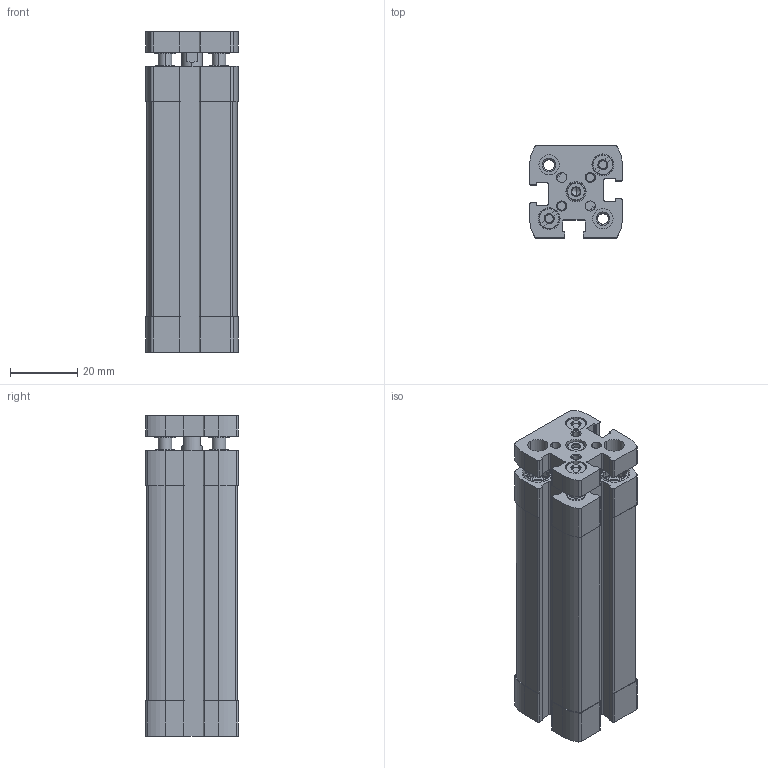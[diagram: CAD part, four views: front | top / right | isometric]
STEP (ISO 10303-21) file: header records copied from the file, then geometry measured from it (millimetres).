
FILE_DESCRIPTION (( 'STEP AP203' ), '1' );
FILE_NAME ('CCNG12-50.STEP', '2017-04-13T14:17:02', ( '' ), ( '' ), 'SwSTEP 2.0', 'SolidWorks 2016', '' );
FILE_SCHEMA (( 'CONFIG_CONTROL_DESIGN' ));
Length unit declared in the file: millimetre
Products named in the file (3): CCNG-12-50--(Z); CCNG-12-50---(KS); CCNG12-50
Assembly tree (2 placements, depth 2):
  CCNG12-50
    CCNG-12-50--(Z)
    CCNG-12-50---(KS)
Bounding box: 27.5 x 27.5 x 95.2 mm (x, y, z)
Volume: 47791 mm3; surface area: 28263.4 mm2
Topology: 2 solids, 6 shells, 538 faces, 1398 edges, 913 vertices
Faces by surface type: plane 252, cylinder 212, cone 70, bspline 4
Entity records: 17083 total; most frequent: CARTESIAN_POINT 3328, DIRECTION 2864, ORIENTED_EDGE 2792, EDGE_CURVE 1396, AXIS2_PLACEMENT_3D 1061, VERTEX_POINT 913, VECTOR 742, LINE 742
